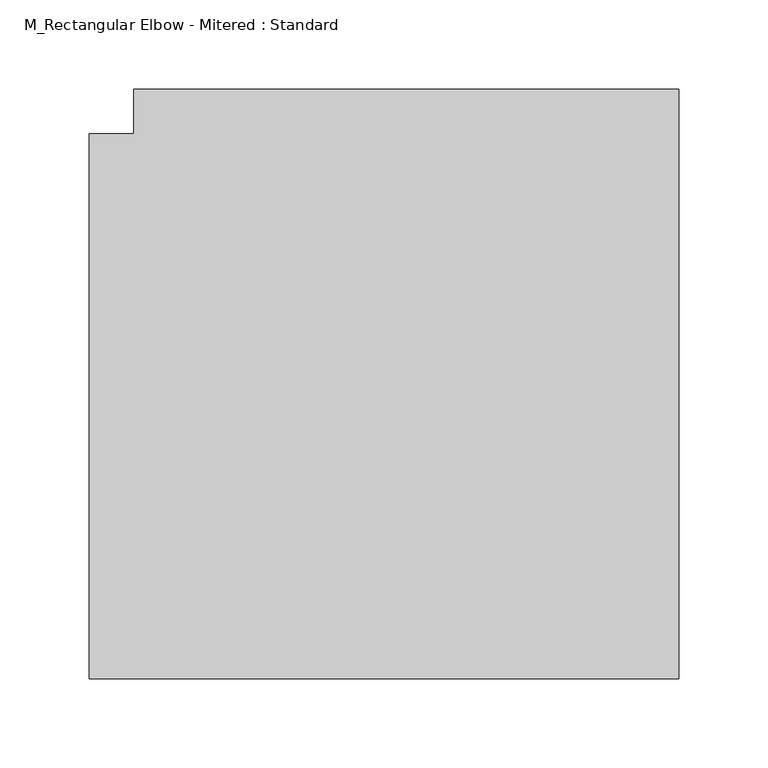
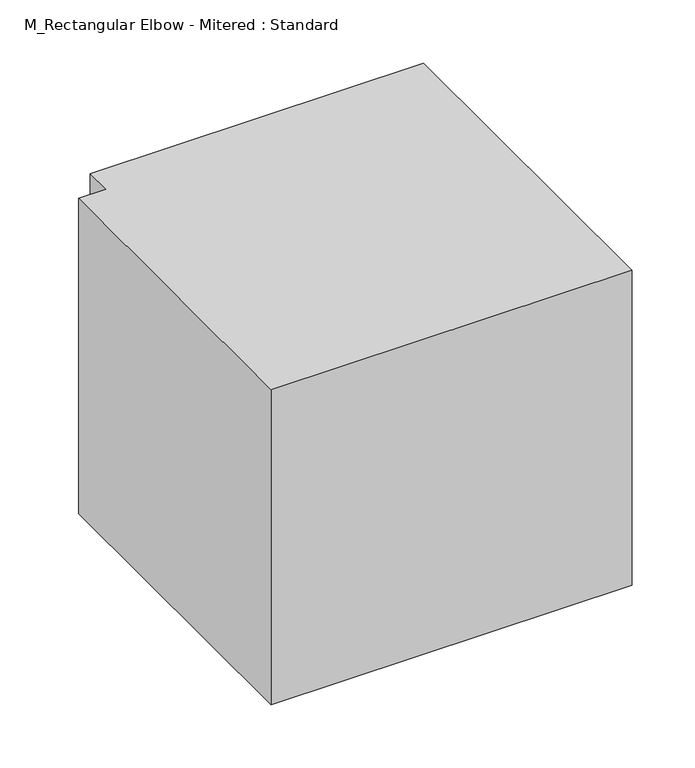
"""IFC4 building model written with IfcOpenShell, lengths in millimetres: duct fitting geometry, M_Rectangular Elbow - Mitered : Standard."""

from ifc_helpers import new_model, si_unit, frame, origin, place, context, project, spatial, polyline, outline, extrude, source, transform, mapped, element, save


def m_rectangular_elbow_mitered_standard_17a97d08(model_context):
    return source(origin(), model_context, "Body", "SweptSolid", [
        extrude(outline(polyline([(-177.5, -152.5), (-177.5, 152.5), (-152.5, 152.5), (-152.5, 177.5), (152.5, 177.5), (152.5, -152.5), (-177.5, -152.5)])), frame((0.0, 0.0, -152.5), z_axis=(0.0, 0.0, 1.0), x_axis=(1.0, 0.0, 0.0)), (0.0, 0.0, 1.0), 305.0),
    ])


if __name__ == "__main__":
    model = new_model("IFC4")
    model_context = context("Model", 3, world=origin())
    ifc_project = project(units=[si_unit("LENGTHUNIT", "METRE", prefix="MILLI")], contexts=[model_context])
    site = spatial("IfcSite", under=ifc_project)
    building = spatial("IfcBuilding", under=site)
    placement = place(None, origin())
    m_rectangular_elbow_mitered_standard_shape = m_rectangular_elbow_mitered_standard_17a97d08(model_context)
    element("IfcDuctFitting", 1, ObjectType="M_Rectangular Elbow - Mitered : Standard", at=placement, inside=building, context=model_context, shape_type="MappedRepresentation", body=[
        mapped(m_rectangular_elbow_mitered_standard_shape, transform((0.0, 0.0, 0.0), x_axis=(1.0, 0.0, 0.0), y_axis=(0.0, 1.0, 0.0), z_axis=(0.0, 0.0, 1.0))),
    ])
    save(model, "model.ifc")
